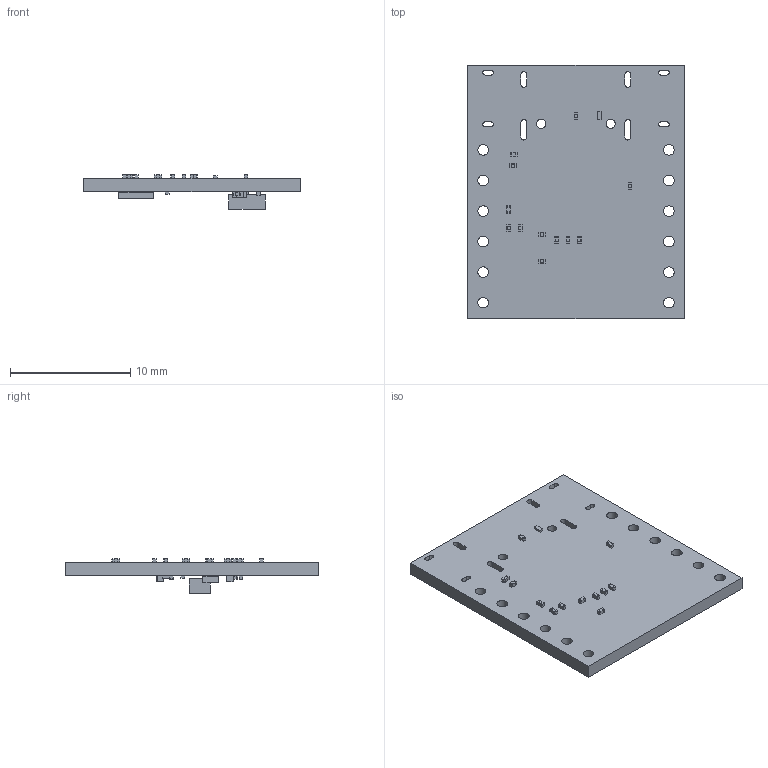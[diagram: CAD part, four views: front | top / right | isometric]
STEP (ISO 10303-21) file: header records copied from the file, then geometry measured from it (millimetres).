
FILE_DESCRIPTION(('Open CASCADE Model'),'2;1');
FILE_NAME('Open CASCADE Shape Model','2026-06-18T16:09:45',('Author'),( 'Open CASCADE'),'Open CASCADE STEP processor 6.8','Open CASCADE 6.8' ,'Unknown');
FILE_SCHEMA(('AUTOMOTIVE_DESIGN { 1 0 10303 214 1 1 1 1 }'));
Length unit declared in the file: millimetre
Products named in the file (40): PCB; Board; C5; 1055275040; Extruded; 1055275176; 1055275312; C2; R2; 1296793120; Q1; 1296793256; R7; R6; 1296792848; R5; C100; User_Library-Chip_Cap_MLCC_0201_(0603); C27; C20; C17; C8; C41; C37; C30; C26; C25; C24; C23; C3; C4; C6; U1; 1055287688
Assembly tree (58 placements, depth 4):
  PCB
    Board
    C5
      1055275040
        Extruded
      1055275176
        Extruded
      1055275312
        Extruded
    C2
      1055275040
        Extruded
      1055275176
        Extruded
      1055275312
        Extruded
    R2
      1296793120
        Extruded
    Q1
      1296793256
        Extruded
    R7
      1296793120
        Extruded
    R6
      1296792848
        Extruded
    R5
      1296792848
        Extruded
    C100
      User_Library-Chip_Cap_MLCC_0201_(0603)
    C27
      User_Library-Chip_Cap_MLCC_0201_(0603)
    C20
      User_Library-Chip_Cap_MLCC_0201_(0603)
    C17
      User_Library-Chip_Cap_MLCC_0201_(0603)
    C8
      User_Library-Chip_Cap_MLCC_0201_(0603)
    C41
      User_Library-Chip_Cap_MLCC_0201_(0603)
    C37
      User_Library-Chip_Cap_MLCC_0201_(0603)
    C30
      User_Library-Chip_Cap_MLCC_0201_(0603)
    C26
      User_Library-Chip_Cap_MLCC_0201_(0603)
    C25
      User_Library-Chip_Cap_MLCC_0201_(0603)
    C24
      User_Library-Chip_Cap_MLCC_0201_(0603)
    C23
      User_Library-Chip_Cap_MLCC_0201_(0603)
    C3
      User_Library-Chip_Cap_MLCC_0201_(0603)
    C4
      User_Library-Chip_Cap_MLCC_0201_(0603)
    C6
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Bounding box: 18 x 21.05 x 2.87 mm (x, y, z)
Volume: 421.6 mm3; surface area: 950.4 mm2
Topology: 28 solids, 28 shells, 784 faces, 1854 edges, 1036 vertices
Faces by surface type: plane 334, cylinder 330, bspline 120
Full cylindrical faces by diameter (mm): 0.762 x2, 0.889 x12
Entity records: 12013 total; most frequent: CARTESIAN_POINT 4063, DIRECTION 1356, LINE 710, VECTOR 710, ORIENTED_EDGE 660, PCURVE 660, DEFINITIONAL_REPRESENTATION 660, EDGE_CURVE 330
